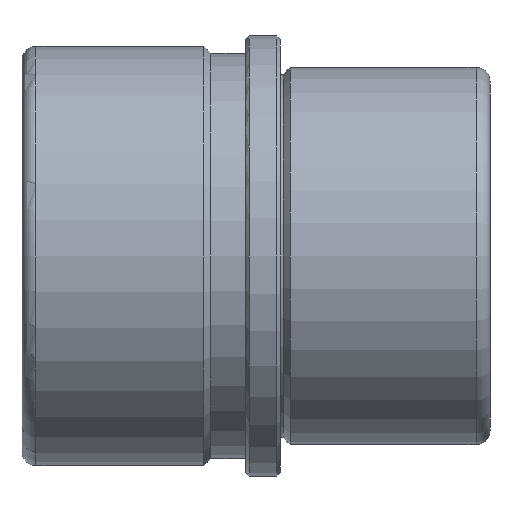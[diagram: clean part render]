
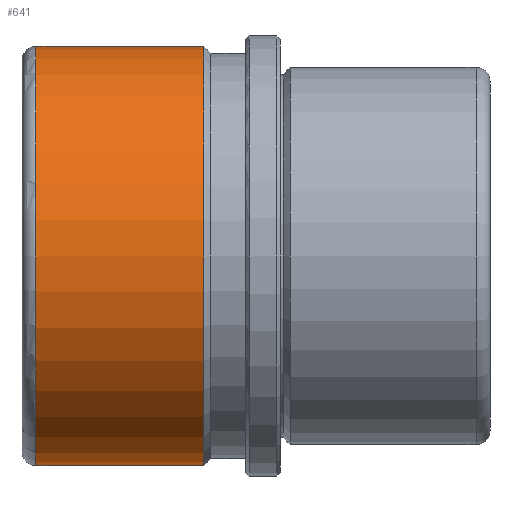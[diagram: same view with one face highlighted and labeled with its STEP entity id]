
A CAD part, front view. The second image highlights one B-rep face of the part: STEP entity #641.
In plain terms, the highlighted cylindrical face has radius 30 mm (diameter 60 mm), a partial arc.
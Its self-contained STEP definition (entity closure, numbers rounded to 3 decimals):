
#426=CARTESIAN_POINT('Line Origine',(30.,0.,30.)) ;
#430=CARTESIAN_POINT('Vertex',(-11.,0.,30.)) ;
#432=CARTESIAN_POINT('Vertex',(-35.,0.,30.)) ;
#446=CARTESIAN_POINT('Vertex',(-11.,0.,-30.)) ;
#449=CARTESIAN_POINT('Line Origine',(30.,0.,-30.)) ;
#453=CARTESIAN_POINT('Vertex',(-35.,0.,-30.)) ;
#604=CARTESIAN_POINT('Axis2P3D Location',(30.,0.,0.)) ;
#609=CARTESIAN_POINT('Axis2P3D Location',(-11.,0.,0.)) ;
#613=CARTESIAN_POINT('Vertex',(-11.,-30.,0.)) ;
#616=CARTESIAN_POINT('Axis2P3D Location',(-11.,0.,0.)) ;
#621=CARTESIAN_POINT('Axis2P3D Location',(-35.,0.,0.)) ;
#625=CARTESIAN_POINT('Vertex',(-35.,-30.,0.)) ;
#628=CARTESIAN_POINT('Axis2P3D Location',(-35.,0.,0.)) ;
#427=DIRECTION('Vector Direction',(-1.,0.,0.)) ;
#450=DIRECTION('Vector Direction',(-1.,0.,0.)) ;
#605=DIRECTION('Axis2P3D Direction',(-1.,-0.,-0.)) ;
#606=DIRECTION('Axis2P3D XDirection',(0.,0.,-1.)) ;
#610=DIRECTION('Axis2P3D Direction',(-1.,-0.,-0.)) ;
#617=DIRECTION('Axis2P3D Direction',(-1.,-0.,-0.)) ;
#622=DIRECTION('Axis2P3D Direction',(-1.,-0.,-0.)) ;
#629=DIRECTION('Axis2P3D Direction',(-1.,-0.,-0.)) ;
#607=AXIS2_PLACEMENT_3D('Cylinder Axis2P3D',#604,#605,#606) ;
#611=AXIS2_PLACEMENT_3D('Circle Axis2P3D',#609,#610,$) ;
#618=AXIS2_PLACEMENT_3D('Circle Axis2P3D',#616,#617,$) ;
#623=AXIS2_PLACEMENT_3D('Circle Axis2P3D',#621,#622,$) ;
#630=AXIS2_PLACEMENT_3D('Circle Axis2P3D',#628,#629,$) ;
#634=ORIENTED_EDGE('',*,*,#455,.T.) ;
#635=ORIENTED_EDGE('',*,*,#615,.F.) ;
#636=ORIENTED_EDGE('',*,*,#620,.F.) ;
#637=ORIENTED_EDGE('',*,*,#434,.T.) ;
#638=ORIENTED_EDGE('',*,*,#627,.T.) ;
#639=ORIENTED_EDGE('',*,*,#632,.T.) ;
#428=VECTOR('Line Direction',#427,1.) ;
#451=VECTOR('Line Direction',#450,1.) ;
#641=ADVANCED_FACE('FAMO-SF1-C40 x 67',(#640),#608,.T.) ;
#612=CIRCLE('generated circle',#611,30.) ;
#619=CIRCLE('generated circle',#618,30.) ;
#624=CIRCLE('generated circle',#623,30.) ;
#631=CIRCLE('generated circle',#630,30.) ;
#608=CYLINDRICAL_SURFACE('generated cylinder',#607,30.) ;
#434=EDGE_CURVE('',#431,#433,#429,.T.) ;
#455=EDGE_CURVE('',#454,#447,#452,.F.) ;
#615=EDGE_CURVE('',#614,#447,#612,.F.) ;
#620=EDGE_CURVE('',#431,#614,#619,.F.) ;
#627=EDGE_CURVE('',#433,#626,#624,.F.) ;
#632=EDGE_CURVE('',#626,#454,#631,.F.) ;
#633=EDGE_LOOP('',(#634,#635,#636,#637,#638,#639)) ;
#640=FACE_OUTER_BOUND('',#633,.T.) ;
#429=LINE('Line',#426,#428) ;
#452=LINE('Line',#449,#451) ;
#431=VERTEX_POINT('',#430) ;
#433=VERTEX_POINT('',#432) ;
#447=VERTEX_POINT('',#446) ;
#454=VERTEX_POINT('',#453) ;
#614=VERTEX_POINT('',#613) ;
#626=VERTEX_POINT('',#625) ;
